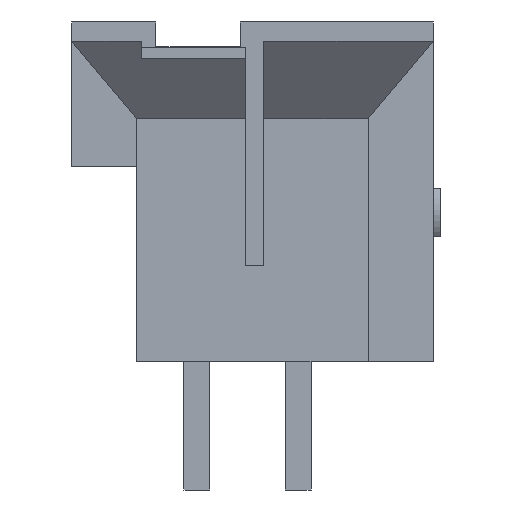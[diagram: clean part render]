
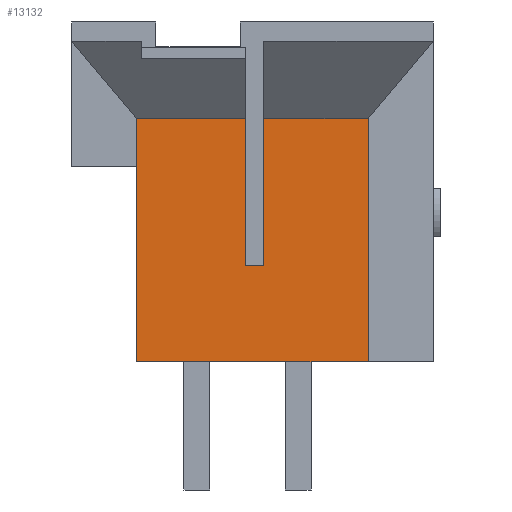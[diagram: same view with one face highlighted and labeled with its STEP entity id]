
A CAD part, left-side view. The second image highlights one B-rep face of the part: STEP entity #13132.
In plain terms, the highlighted planar face has unit normal (-1, 0, 0).
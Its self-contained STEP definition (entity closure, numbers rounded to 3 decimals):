
#2182=DIRECTION('',(0.,1.,0.));
#2183=VECTOR('',#2182,9.6);
#2184=CARTESIAN_POINT('',(-42.59,-4.8,-7.05));
#2185=LINE('',#2184,#2183);
#2614=DIRECTION('',(0.,0.,1.));
#2615=VECTOR('',#2614,10.082);
#2616=CARTESIAN_POINT('',(-42.59,4.8,-7.05));
#2617=LINE('',#2616,#2615);
#2812=DIRECTION('',(0.,0.,-1.));
#2813=VECTOR('',#2812,6.082);
#2814=CARTESIAN_POINT('',(-42.59,0.275,3.032));
#2815=LINE('',#2814,#2813);
#2816=DIRECTION('',(0.,-1.,0.));
#2817=VECTOR('',#2816,0.75);
#2818=CARTESIAN_POINT('',(-42.59,0.275,-3.05));
#2819=LINE('',#2818,#2817);
#2820=DIRECTION('',(0.,0.,-1.));
#2821=VECTOR('',#2820,6.082);
#2822=CARTESIAN_POINT('',(-42.59,-0.475,3.032));
#2823=LINE('',#2822,#2821);
#2824=DIRECTION('',(0.,-1.,0.));
#2825=VECTOR('',#2824,4.325);
#2826=CARTESIAN_POINT('',(-42.59,-0.475,3.032));
#2827=LINE('',#2826,#2825);
#2828=DIRECTION('',(0.,-1.,0.));
#2829=VECTOR('',#2828,4.525);
#2830=CARTESIAN_POINT('',(-42.59,4.8,3.032));
#2831=LINE('',#2830,#2829);
#3028=DIRECTION('',(0.,0.,-1.));
#3029=VECTOR('',#3028,10.082);
#3030=CARTESIAN_POINT('',(-42.59,-4.8,3.032));
#3031=LINE('',#3030,#3029);
#8038=CARTESIAN_POINT('',(-42.59,-4.8,3.032));
#8040=VERTEX_POINT('',#8038);
#8043=CARTESIAN_POINT('',(-42.59,-4.8,-7.05));
#8044=VERTEX_POINT('',#8043);
#8045=CARTESIAN_POINT('',(-42.59,4.8,-7.05));
#8046=VERTEX_POINT('',#8045);
#8051=CARTESIAN_POINT('',(-42.59,4.8,3.032));
#8052=VERTEX_POINT('',#8051);
#8126=CARTESIAN_POINT('',(-42.59,-0.475,3.032));
#8128=VERTEX_POINT('',#8126);
#8130=CARTESIAN_POINT('',(-42.59,0.275,3.032));
#8131=CARTESIAN_POINT('',(-42.59,0.275,-3.05));
#8132=VERTEX_POINT('',#8130);
#8133=VERTEX_POINT('',#8131);
#8134=CARTESIAN_POINT('',(-42.59,-0.475,-3.05));
#8135=VERTEX_POINT('',#8134);
#13114=CARTESIAN_POINT('',(-42.59,7.5,3.032));
#13115=DIRECTION('',(1.,0.,0.));
#13116=DIRECTION('',(0.,0.,-1.));
#13117=AXIS2_PLACEMENT_3D('',#13114,#13115,#13116);
#13118=PLANE('',#13117);
#13119=ORIENTED_EDGE('',*,*,#13077,.T.);
#13120=ORIENTED_EDGE('',*,*,#13106,.T.);
#13121=ORIENTED_EDGE('',*,*,#12977,.F.);
#13123=ORIENTED_EDGE('',*,*,#13122,.T.);
#13125=ORIENTED_EDGE('',*,*,#13124,.T.);
#13126=ORIENTED_EDGE('',*,*,#11831,.T.);
#13127=ORIENTED_EDGE('',*,*,#12856,.T.);
#13129=ORIENTED_EDGE('',*,*,#13128,.T.);
#13130=EDGE_LOOP('',(#13119,#13120,#13121,#13123,#13125,#13126,#13127,#13129));
#13131=FACE_OUTER_BOUND('',#13130,.F.);
#13132=ADVANCED_FACE('',(#13131),#13118,.F.);
#11831=EDGE_CURVE('',#8044,#8046,#2185,.T.);
#12856=EDGE_CURVE('',#8046,#8052,#2617,.T.);
#12977=EDGE_CURVE('',#8128,#8135,#2823,.T.);
#13077=EDGE_CURVE('',#8132,#8133,#2815,.T.);
#13106=EDGE_CURVE('',#8133,#8135,#2819,.T.);
#13122=EDGE_CURVE('',#8128,#8040,#2827,.T.);
#13124=EDGE_CURVE('',#8040,#8044,#3031,.T.);
#13128=EDGE_CURVE('',#8052,#8132,#2831,.T.);
